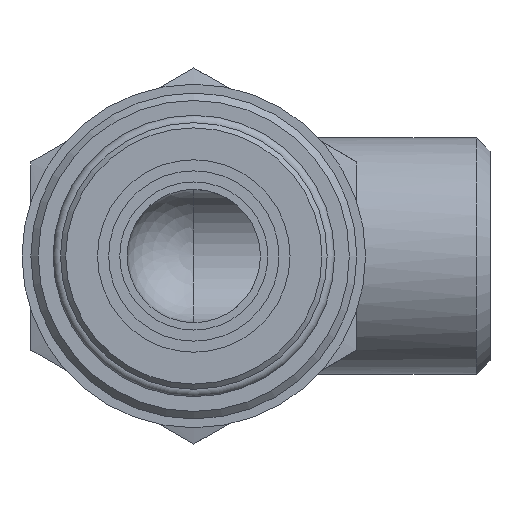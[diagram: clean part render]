
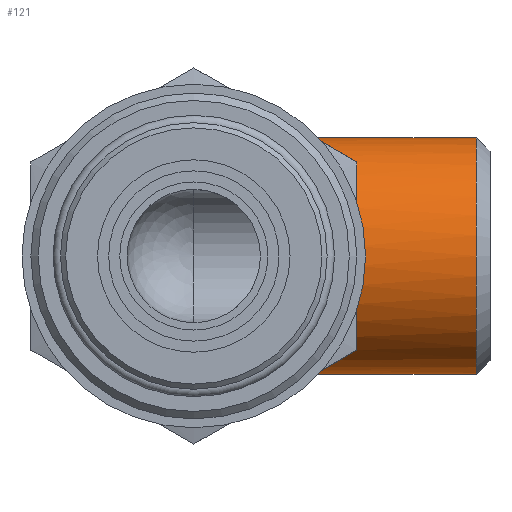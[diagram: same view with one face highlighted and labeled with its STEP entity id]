
A CAD part, left-side view. The second image highlights one B-rep face of the part: STEP entity #121.
In plain terms, the highlighted cylindrical face has radius 8 mm (diameter 16 mm), a full revolution.
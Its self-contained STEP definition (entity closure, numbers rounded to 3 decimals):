
#121 = ADVANCED_FACE( '', ( #247, #248 ), #249, .T. );
#247 = FACE_OUTER_BOUND( '', #383, .T. );
#248 = FACE_OUTER_BOUND( '', #384, .T. );
#249 = CYLINDRICAL_SURFACE( '', #385, 8. );
#383 = EDGE_LOOP( '', ( #683 ) );
#384 = EDGE_LOOP( '', ( #684, #685, #686, #687 ) );
#385 = AXIS2_PLACEMENT_3D( '', #688, #689, #690 );
#683 = ORIENTED_EDGE( '', *, *, #795, .F. );
#684 = ORIENTED_EDGE( '', *, *, #747, .F. );
#685 = ORIENTED_EDGE( '', *, *, #766, .F. );
#686 = ORIENTED_EDGE( '', *, *, #718, .F. );
#687 = ORIENTED_EDGE( '', *, *, #790, .F. );
#688 = CARTESIAN_POINT( '', ( 0., -20., 0. ) );
#689 = DIRECTION( '', ( 0., 1., 0. ) );
#690 = DIRECTION( '', ( 0., 0., -1. ) );
#718 = EDGE_CURVE( '', #798, #801, #802, .F. );
#747 = EDGE_CURVE( '', #852, #854, #855, .F. );
#766 = EDGE_CURVE( '', #801, #852, #884, .F. );
#790 = EDGE_CURVE( '', #854, #798, #922, .F. );
#795 = EDGE_CURVE( '', #931, #931, #932, .T. );
#798 = VERTEX_POINT( '', #937 );
#801 = VERTEX_POINT( '', #941 );
#802 = ELLIPSE( '', #942, 16., 8. );
#852 = VERTEX_POINT( '', #1034 );
#854 = VERTEX_POINT( '', #1037 );
#855 = ELLIPSE( '', #1038, 16., 8. );
#884 = CIRCLE( '', #1141, 8. );
#922 = CIRCLE( '', #1189, 8. );
#931 = VERTEX_POINT( '', #1198 );
#932 = CIRCLE( '', #1199, 8. );
#937 = CARTESIAN_POINT( '', ( -4.865, -11., 6.351 ) );
#941 = CARTESIAN_POINT( '', ( 4.865, -11., 6.351 ) );
#942 = AXIS2_PLACEMENT_3D( '', #1205, #1206, #1207 );
#1034 = CARTESIAN_POINT( '', ( 4.865, -11., -6.351 ) );
#1037 = CARTESIAN_POINT( '', ( -4.865, -11., -6.351 ) );
#1038 = AXIS2_PLACEMENT_3D( '', #1262, #1263, #1264 );
#1141 = AXIS2_PLACEMENT_3D( '', #1269, #1270, #1271 );
#1189 = AXIS2_PLACEMENT_3D( '', #1332, #1333, #1334 );
#1198 = CARTESIAN_POINT( '', ( 0., -19.08, -8. ) );
#1199 = AXIS2_PLACEMENT_3D( '', #1347, #1348, #1349 );
#1205 = CARTESIAN_POINT( '', ( 0., -22., 0. ) );
#1206 = DIRECTION( '', ( 0., -0.5, 0.866 ) );
#1207 = DIRECTION( '', ( 0., -0.866, -0.5 ) );
#1262 = CARTESIAN_POINT( '', ( 0., -22., 0. ) );
#1263 = DIRECTION( '', ( 0., -0.5, -0.866 ) );
#1264 = DIRECTION( '', ( 0., -0.866, 0.5 ) );
#1269 = CARTESIAN_POINT( '', ( 0., -11., 0. ) );
#1270 = DIRECTION( '', ( 0., -1., 0. ) );
#1271 = DIRECTION( '', ( 0., 0., -1. ) );
#1332 = CARTESIAN_POINT( '', ( 0., -11., 0. ) );
#1333 = DIRECTION( '', ( 0., -1., 0. ) );
#1334 = DIRECTION( '', ( 0., 0., -1. ) );
#1347 = CARTESIAN_POINT( '', ( 0., -19.08, 0. ) );
#1348 = DIRECTION( '', ( 0., -1., 0. ) );
#1349 = DIRECTION( '', ( 0., 0., -1. ) );
